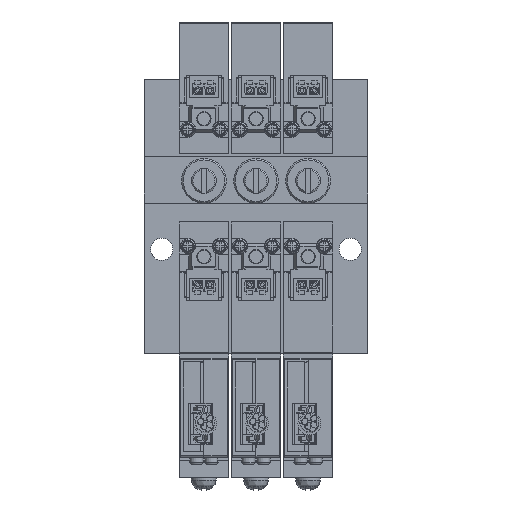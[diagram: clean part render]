
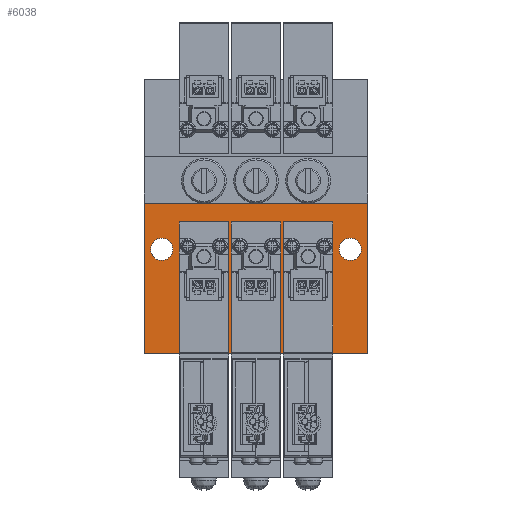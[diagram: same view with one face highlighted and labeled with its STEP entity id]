
A CAD part, top view. The second image highlights one B-rep face of the part: STEP entity #6038.
In plain terms, the highlighted planar face has unit normal (0, 0, 1).
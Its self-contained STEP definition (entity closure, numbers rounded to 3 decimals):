
#6038=ADVANCED_FACE('',(#10181,#10182,#10183),#10184,.F.);
#10181=FACE_BOUND('',#18581,.T.);
#10182=FACE_BOUND('',#18582,.T.);
#10183=FACE_OUTER_BOUND('',#18583,.T.);
#10184=PLANE('',#18584);
#18581=EDGE_LOOP('',(#28334));
#18582=EDGE_LOOP('',(#28335));
#18583=EDGE_LOOP('',(#28336,#28337,#28338,#28339));
#18584=AXIS2_PLACEMENT_3D('',#28340,#28341,#28342);
#28334=ORIENTED_EDGE('',*,*,#61014,.F.);
#28335=ORIENTED_EDGE('',*,*,#61015,.F.);
#28336=ORIENTED_EDGE('',*,*,#61016,.F.);
#28337=ORIENTED_EDGE('',*,*,#61017,.F.);
#28338=ORIENTED_EDGE('',*,*,#61018,.T.);
#28339=ORIENTED_EDGE('',*,*,#61012,.T.);
#28340=CARTESIAN_POINT('',(-45.0,30.3,14.8));
#28341=DIRECTION('',(0.0,0.0,-1.0));
#28342=DIRECTION('',(1.0,0.0,0.0));
#61012=EDGE_CURVE('',#71609,#71607,#71610,.T.);
#61014=EDGE_CURVE('',#71612,#71612,#71613,.T.);
#61015=EDGE_CURVE('',#71614,#71614,#71615,.T.);
#61016=EDGE_CURVE('',#71616,#71607,#71617,.T.);
#61017=EDGE_CURVE('',#71618,#71616,#71619,.T.);
#61018=EDGE_CURVE('',#71618,#71609,#71620,.T.);
#71607=VERTEX_POINT('',#89421);
#71609=VERTEX_POINT('',#89424);
#71610=LINE('',#89425,#89426);
#71612=VERTEX_POINT('',#89429);
#71613=CIRCLE('',#89430,2.25);
#71614=VERTEX_POINT('',#89431);
#71615=CIRCLE('',#89432,2.25);
#71616=VERTEX_POINT('',#89433);
#71617=LINE('',#89434,#89435);
#71618=VERTEX_POINT('',#89436);
#71619=LINE('',#89437,#89438);
#71620=LINE('',#89439,#89440);
#89421=CARTESIAN_POINT('',(0.0,0.,14.8));
#89424=CARTESIAN_POINT('',(-45.0,0.,14.8));
#89425=CARTESIAN_POINT('',(-45.0,0.,14.8));
#89426=VECTOR('',#117233,1.0);
#89429=CARTESIAN_POINT('',(-39.25,21.0,14.8));
#89430=AXIS2_PLACEMENT_3D('',#117235,#117236,#117237);
#89431=CARTESIAN_POINT('',(-1.25,21.0,14.8));
#89432=AXIS2_PLACEMENT_3D('',#117238,#117239,#117240);
#89433=CARTESIAN_POINT('',(0.0,30.3,14.8));
#89434=CARTESIAN_POINT('',(0.0,30.3,14.8));
#89435=VECTOR('',#117241,1.0);
#89436=CARTESIAN_POINT('',(-45.0,30.3,14.8));
#89437=CARTESIAN_POINT('',(-45.0,30.3,14.8));
#89438=VECTOR('',#117242,1.0);
#89439=CARTESIAN_POINT('',(-45.0,30.3,14.8));
#89440=VECTOR('',#117243,1.0);
#117233=DIRECTION('',(1.0,0.0,0.0));
#117235=CARTESIAN_POINT('',(-41.5,21.0,14.8));
#117236=DIRECTION('',(0.0,0.0,1.0));
#117237=DIRECTION('',(1.0,0.0,0.0));
#117238=CARTESIAN_POINT('',(-3.5,21.0,14.8));
#117239=DIRECTION('',(0.0,0.0,1.0));
#117240=DIRECTION('',(1.0,0.0,0.0));
#117241=DIRECTION('',(0.0,-1.0,0.0));
#117242=DIRECTION('',(1.0,0.0,0.0));
#117243=DIRECTION('',(0.0,-1.0,0.0));
